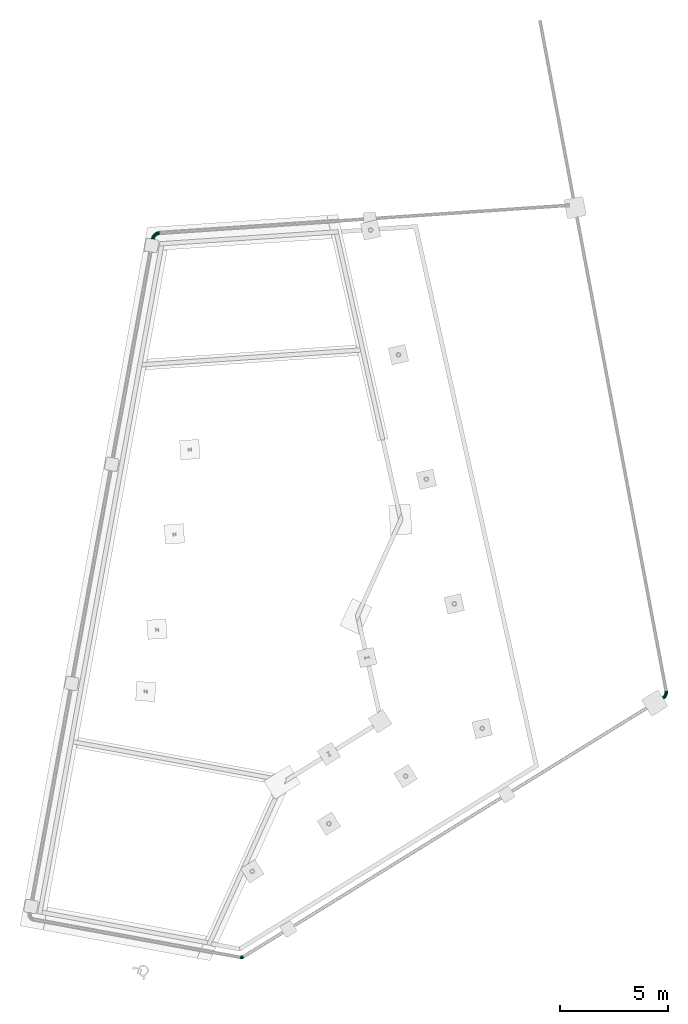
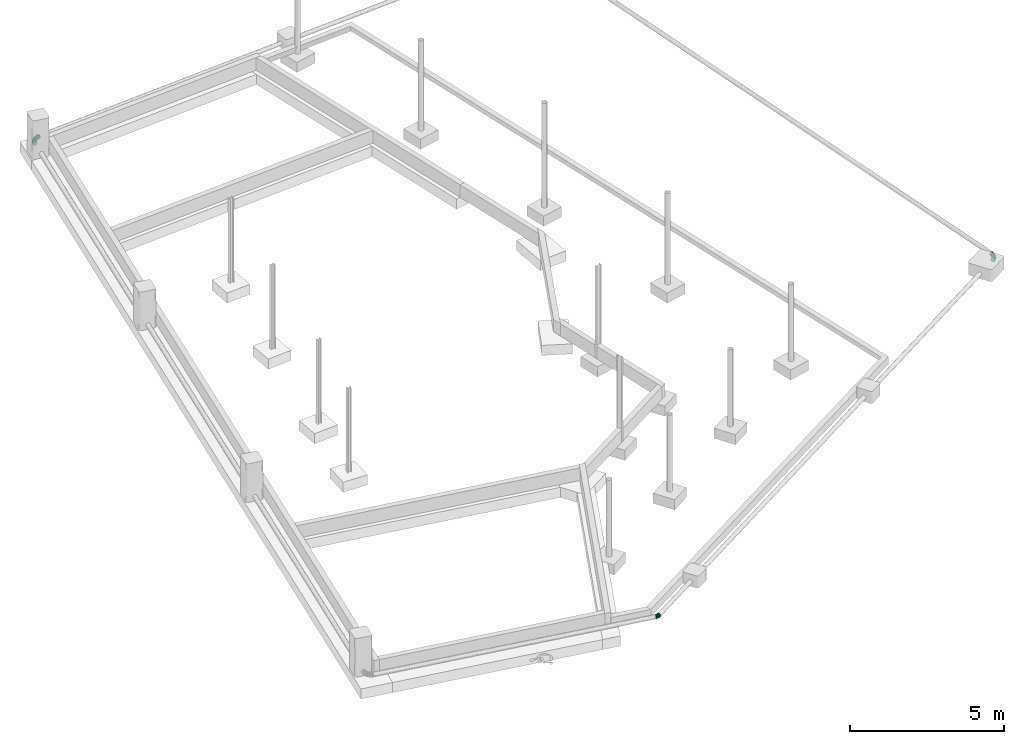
# One storey, part 15 of 17: 3 flow fittings.
"""IFC2X3 building model written with IfcOpenShell, lengths in centimetres."""

from ifc_helpers import new_model, entity, si_unit, converted_unit, derived_unit, direction, frame, origin, place, context, subcontext, project, spatial, faceted_brep, source, transform, mapped, material, type_object, type_shapes, element, save


model = new_model("IFC2X3")

# Units and contexts
model_context = context("Model", 3, precision=0.001, world=origin(), true_north=direction((6.12303176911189e-17, 1.0)))
body_context = subcontext(model_context, "Body", "Model", "MODEL_VIEW")
ifc_project = project(units=[si_unit("LENGTHUNIT", "METRE", prefix="CENTI"), si_unit("AREAUNIT", "SQUARE_METRE"), si_unit("VOLUMEUNIT", "CUBIC_METRE"), converted_unit("PLANEANGLEUNIT", "DEGREE", entity("IfcRatioMeasure", 0.0174532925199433), si_unit("PLANEANGLEUNIT", "RADIAN"), dimensions=[0, 0, 0, 0, 0, 0, 0]), si_unit("MASSUNIT", "GRAM", prefix="KILO"), derived_unit("MASSDENSITYUNIT", [(si_unit("MASSUNIT", "GRAM", prefix="KILO"), 1), (si_unit("LENGTHUNIT", "METRE"), -3)]), si_unit("TIMEUNIT", "SECOND"), si_unit("FREQUENCYUNIT", "HERTZ"), si_unit("THERMODYNAMICTEMPERATUREUNIT", "DEGREE_CELSIUS"), derived_unit("THERMALTRANSMITTANCEUNIT", [(si_unit("MASSUNIT", "GRAM", prefix="KILO"), 1), (si_unit("THERMODYNAMICTEMPERATUREUNIT", "KELVIN"), -1), (si_unit("TIMEUNIT", "SECOND"), -3)]), derived_unit("VOLUMETRICFLOWRATEUNIT", [(si_unit("LENGTHUNIT", "METRE"), 3), (si_unit("TIMEUNIT", "SECOND"), -1)]), si_unit("ELECTRICCURRENTUNIT", "AMPERE"), si_unit("ELECTRICVOLTAGEUNIT", "VOLT"), si_unit("POWERUNIT", "WATT"), si_unit("FORCEUNIT", "NEWTON", prefix="KILO"), si_unit("ILLUMINANCEUNIT", "LUX"), si_unit("LUMINOUSFLUXUNIT", "LUMEN"), si_unit("LUMINOUSINTENSITYUNIT", "CANDELA"), derived_unit("USERDEFINED", [(si_unit("MASSUNIT", "GRAM", prefix="KILO"), -1), (si_unit("LENGTHUNIT", "METRE"), -2), (si_unit("TIMEUNIT", "SECOND"), 3), (si_unit("LUMINOUSFLUXUNIT", "LUMEN"), 1)]), derived_unit("LINEARVELOCITYUNIT", [(si_unit("LENGTHUNIT", "METRE"), 1), (si_unit("TIMEUNIT", "SECOND"), -1)]), si_unit("PRESSUREUNIT", "PASCAL"), derived_unit("USERDEFINED", [(si_unit("LENGTHUNIT", "METRE"), -2), (si_unit("MASSUNIT", "GRAM", prefix="KILO"), 1), (si_unit("TIMEUNIT", "SECOND"), -2)])], contexts=[model_context])

# Site, building, storey
site_placement = place(None, frame((2611.71187422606, 13650.4058644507, 0.0), z_axis=(0.0, 0.0, 1.0), x_axis=(0.0673222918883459, -0.997731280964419, 0.0)))
site = spatial("IfcSite", under=ifc_project, at=site_placement, Name="Surface", CompositionType="ELEMENT")
building_placement = place(site_placement, origin())
building = spatial("IfcBuilding", under=site, at=building_placement, CompositionType="ELEMENT")
storey_placement = place(building_placement, frame((0.0, 0.0, 86950.0)))
storey = spatial("IfcBuildingStorey", under=building, at=storey_placement, Name="-1 Soubassement", CompositionType="ELEMENT", Elevation=86950.0)

# Flow fittings
ifc_material = material(Name="PVC")
duct_fitting_type_1 = type_object("IfcDuctFittingType", Name="Coude 45", PredefinedType="NOTDEFINED", material=ifc_material)
shared_shape_1 = source(origin(), body_context, "Body", "Brep", [
    faceted_brep([(-9.23504927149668, 31.2714390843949, 8.0), (-7.79777735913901, 28.5683237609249, 7.3910362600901), (-2.95147842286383, 31.9617388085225, 7.3910362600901), (-5.0, 34.2368525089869, 8.0), (-6.57931706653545, 26.2767332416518, 5.6568542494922), (-1.21482568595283, 30.0329905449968, 5.6568542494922), (-5.76516792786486, 24.7455414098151, 3.06146745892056), (-0.0544314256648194, 28.744242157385, 3.06146745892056), (-5.47927676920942, 24.2078583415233, 0.0), (0.353044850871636, 28.2916939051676, 0.0), (-5.76516792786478, 24.745541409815, -3.06146745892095), (-0.0544314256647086, 28.7442421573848, -3.06146745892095), (-6.57931706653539, 26.2767332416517, -5.65685424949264), (-1.21482568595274, 30.0329905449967, -5.65685424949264), (-7.79777735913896, 28.5683237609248, -7.39103626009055), (-2.95147842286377, 31.9617388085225, -7.39103626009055), (-9.23504927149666, 31.2714390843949, -8.0), (-5.0, 34.2368525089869, -8.0), (-10.6723211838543, 33.9745544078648, -7.39103626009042), (-7.04852157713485, 36.5119662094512, -7.39103626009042), (-11.8907814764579, 36.2661449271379, -5.65685424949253), (-8.78517431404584, 38.4407144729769, -5.65685424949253), (-12.7049306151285, 37.7973367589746, -3.06146745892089), (-9.94556857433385, 39.7294628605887, -3.06146745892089), (-12.9908217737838, 38.3350198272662, 0.0), (-10.3530448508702, 40.182011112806, 0.0), (-12.7049306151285, 37.7973367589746, 3.06146745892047), (-9.94556857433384, 39.7294628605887, 3.06146745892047), (-11.8907814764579, 36.2661449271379, 5.65685424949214), (-8.78517431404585, 38.4407144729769, 5.65685424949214), (-10.6723211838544, 33.9745544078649, 7.39103626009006), (-7.04852157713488, 36.5119662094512, 7.39103626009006), (-14.0616979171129, 29.4186622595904, 8.0), (-13.3210619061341, 26.4481334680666, 7.3910362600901), (-12.6931810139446, 23.9298407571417, 5.6568542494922), (-12.2736444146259, 22.2471713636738, 3.06146745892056), (-12.1263227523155, 21.6562964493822, 0.0), (-12.2736444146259, 22.2471713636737, -3.06146745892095), (-12.6931810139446, 23.9298407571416, -5.65685424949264), (-13.3210619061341, 26.4481334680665, -7.39103626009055), (-14.0616979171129, 29.4186622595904, -8.0), (-14.8023339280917, 32.3891910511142, -7.39103626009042), (-15.4302148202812, 34.907483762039, -5.65685424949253), (-15.8497514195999, 36.5901531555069, -3.06146745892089), (-15.9970730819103, 37.1810280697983, 0.0), (-15.8497514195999, 36.5901531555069, 3.06146745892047), (-15.4302148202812, 34.907483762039, 5.65685424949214), (-14.8023339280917, 32.3891910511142, 7.39103626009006), (-19.19320175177, 28.7885928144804, 8.0), (-19.19320175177, 25.7271253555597, 7.3910362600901), (-19.19320175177, 23.131738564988, 5.6568542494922), (-19.19320175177, 21.3975565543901, 3.06146745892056), (-19.19320175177, 20.7885928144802, 0.0), (-19.19320175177, 21.3975565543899, -3.06146745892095), (-19.19320175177, 23.1317385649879, -5.65685424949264), (-19.19320175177, 25.7271253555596, -7.39103626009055), (-19.19320175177, 28.7885928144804, -8.0), (-19.19320175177, 31.8500602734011, -7.39103626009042), (-19.19320175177, 34.4454470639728, -5.65685424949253), (-19.1932017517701, 36.1796290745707, -3.06146745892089), (-19.1932017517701, 36.7885928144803, 0.0), (-19.1932017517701, 36.1796290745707, 3.06146745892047), (-19.1932017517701, 34.4454470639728, 5.65685424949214), (-19.19320175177, 31.8500602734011, 7.39103626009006)], [[[0, 1, 2, 3]], [[1, 4, 5, 2]], [[4, 6, 7, 5]], [[6, 8, 9, 7]], [[8, 10, 11, 9]], [[10, 12, 13, 11]], [[12, 14, 15, 13]], [[14, 16, 17, 15]], [[16, 18, 19, 17]], [[18, 20, 21, 19]], [[20, 22, 23, 21]], [[22, 24, 25, 23]], [[24, 26, 27, 25]], [[26, 28, 29, 27]], [[28, 30, 31, 29]], [[30, 0, 3, 31]], [[32, 33, 1, 0]], [[33, 34, 4, 1]], [[34, 35, 6, 4]], [[35, 36, 8, 6]], [[36, 37, 10, 8]], [[37, 38, 12, 10]], [[38, 39, 14, 12]], [[39, 40, 16, 14]], [[40, 41, 18, 16]], [[41, 42, 20, 18]], [[42, 43, 22, 20]], [[43, 44, 24, 22]], [[44, 45, 26, 24]], [[45, 46, 28, 26]], [[46, 47, 30, 28]], [[47, 32, 0, 30]], [[48, 49, 33, 32]], [[49, 50, 34, 33]], [[50, 51, 35, 34]], [[51, 52, 36, 35]], [[52, 53, 37, 36]], [[53, 54, 38, 37]], [[54, 55, 39, 38]], [[55, 56, 40, 39]], [[56, 57, 41, 40]], [[57, 58, 42, 41]], [[58, 59, 43, 42]], [[59, 60, 44, 43]], [[60, 61, 45, 44]], [[61, 62, 46, 45]], [[62, 63, 47, 46]], [[63, 48, 32, 47]], [[3, 2, 5, 7, 9, 11, 13, 15, 17, 19, 21, 23, 25, 27, 29, 31]], [[63, 62, 61, 60, 59, 58, 57, 56, 55, 54, 53, 52, 51, 50, 49, 48]]]),
])
type_shapes(duct_fitting_type_1, [shared_shape_1])
flow_fitting_1_placement = place(storey_placement, frame((5317.73809617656, 355.895064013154, 18.0), z_axis=(0.0, 0.0, 1.0), x_axis=(0.245945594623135, 0.969283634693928, 0.0)))
element("IfcFlowFitting", 1, at=flow_fitting_1_placement, inside=storey, type_object=duct_fitting_type_1, material=ifc_material, Name="coude 45:Coude 45", ObjectType="coude 45:Coude 45", context=body_context, shape_type="MappedRepresentation", body=[
    mapped(shared_shape_1, transform((0.0, 0.0, 0.0), scale=1.0)),
])
duct_fitting_type_2 = type_object("IfcDuctFittingType", Name="Coude 45", PredefinedType="NOTDEFINED", material=ifc_material)
shared_shape_2 = source(origin(), body_context, "Body", "Brep", [
    faceted_brep([(-7.8367278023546, 33.1002332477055, 8.0), (-5.25471233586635, 31.4553079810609, 7.3910362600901), (-2.14187390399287, 37.6310662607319, 7.3910362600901), (-5.0, 38.728198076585, 8.0), (-3.06578531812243, 30.0608076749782, 5.6568542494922), (0.281128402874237, 36.7009628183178, 5.6568542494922), (-1.60319104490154, 29.1290323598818, 3.06146745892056), (1.90012678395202, 36.0794875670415, 3.06146745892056), (-1.08959623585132, 28.8018363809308, 0.0), (2.46864341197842, 35.8612544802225, 0.0), (-1.6031910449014, 29.1290323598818, -3.06146745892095), (1.90012678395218, 36.0794875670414, -3.06146745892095), (-3.06578531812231, 30.0608076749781, -5.65685424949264), (0.281128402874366, 36.7009628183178, -5.65685424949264), (-5.25471233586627, 31.4553079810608, -7.39103626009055), (-2.14187390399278, 37.6310662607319, -7.39103626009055), (-7.83672780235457, 33.1002332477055, -8.0), (-5.0, 38.728198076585, -8.0), (-10.4187432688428, 34.7451585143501, -7.39103626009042), (-7.85812609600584, 39.8253298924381, -7.39103626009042), (-12.6076702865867, 36.1396588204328, -5.65685424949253), (-10.2811284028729, 40.7554333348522, -5.65685424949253), (-14.0702645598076, 37.0714341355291, -3.06146745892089), (-11.9001267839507, 41.3769085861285, -3.06146745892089), (-14.5838593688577, 37.39863011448, 0.0), (-12.4686434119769, 41.5951416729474, 0.0), (-14.0702645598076, 37.0714341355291, 3.06146745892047), (-11.9001267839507, 41.3769085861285, 3.06146745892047), (-12.6076702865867, 36.1396588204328, 5.65685424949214), (-10.2811284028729, 40.7554333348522, 5.65685424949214), (-10.4187432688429, 34.7451585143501, 7.39103626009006), (-7.85812609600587, 39.8253298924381, 7.39103626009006), (-11.7385431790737, 28.1508040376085, 8.0), (-9.53630778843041, 26.0241300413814, 7.3910362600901), (-7.669342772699, 24.2212228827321, 5.6568542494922), (-6.4218766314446, 23.0165588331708, 3.06146745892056), (-5.98382477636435, 22.5935370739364, 0.0), (-6.42187663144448, 23.0165588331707, -3.06146745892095), (-7.6693427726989, 24.221222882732, -5.65685424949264), (-9.53630778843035, 26.0241300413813, -7.39103626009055), (-11.7385431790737, 28.1508040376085, -8.0), (-13.940778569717, 30.2774780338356, -7.39103626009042), (-15.8077435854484, 32.0803851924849, -5.65685424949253), (-17.0552097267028, 33.2850492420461, -3.06146745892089), (-17.4932615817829, 33.7080710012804, 0.0), (-17.0552097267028, 33.2850492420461, 3.06146745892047), (-15.8077435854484, 32.0803851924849, 5.65685424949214), (-13.940778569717, 30.2774780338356, 7.39103626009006), (-16.5487859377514, 24.0786329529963, 8.0), (-14.8147516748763, 21.5555974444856, 7.3910362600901), (-13.3447084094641, 19.4166712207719, 5.6568542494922), (-12.3624569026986, 17.987486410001, 3.06146745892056), (-12.0175360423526, 17.48562344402, 0.0), (-12.3624569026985, 17.9874864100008, -3.06146745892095), (-13.3447084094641, 19.4166712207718, -5.65685424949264), (-14.8147516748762, 21.5555974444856, -7.39103626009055), (-16.5487859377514, 24.0786329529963, -8.0), (-18.2828202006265, 26.6016684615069, -7.39103626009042), (-19.7528634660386, 28.7405946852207, -5.65685424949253), (-20.7351149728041, 30.1697794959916, -3.06146745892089), (-21.08003583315, 30.6716424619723, 0.0), (-20.7351149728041, 30.1697794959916, 3.06146745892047), (-19.7528634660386, 28.7405946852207, 5.65685424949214), (-18.2828202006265, 26.6016684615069, 7.39103626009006), (-22.0743219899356, 21.047220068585, 8.0), (-20.8781113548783, 18.2291244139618, 7.3910362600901), (-19.8640129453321, 15.8400582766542, 5.6568542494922), (-19.1864140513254, 14.2437353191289, 3.06146745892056), (-18.9484729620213, 13.6831812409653, 0.0), (-19.1864140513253, 14.2437353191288, -3.06146745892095), (-19.864012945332, 15.8400582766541, -5.65685424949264), (-20.8781113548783, 18.2291244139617, -7.39103626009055), (-22.0743219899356, 21.047220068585, -8.0), (-23.2705326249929, 23.8653157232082, -7.39103626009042), (-24.2846310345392, 26.2543818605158, -5.65685424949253), (-24.9622299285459, 27.8507048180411, -3.06146745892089), (-25.2001710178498, 28.4112588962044, 0.0), (-24.9622299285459, 27.850704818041, 3.06146745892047), (-24.2846310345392, 26.2543818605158, 5.65685424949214), (-23.2705326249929, 23.8653157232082, 7.39103626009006), (-28.0932977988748, 19.1782784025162, 8.0), (-27.4829393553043, 16.1782708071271, 7.3910362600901), (-26.9655024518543, 13.6349871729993, 5.6568542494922), (-26.6197621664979, 11.9356193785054, 3.06146745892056), (-26.4983543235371, 11.3388807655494, 0.0), (-26.6197621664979, 11.9356193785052, -3.06146745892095), (-26.9655024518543, 13.6349871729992, -5.65685424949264), (-27.4829393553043, 16.178270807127, -7.39103626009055), (-28.0932977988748, 19.1782784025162, -8.0), (-28.7036562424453, 22.1782859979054, -7.39103626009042), (-29.2210931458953, 24.7215696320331, -5.65685424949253), (-29.5668334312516, 26.420937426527, -3.06146745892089), (-29.6882412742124, 27.0176760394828, 0.0), (-29.5668334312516, 26.420937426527, 3.06146745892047), (-29.2210931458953, 24.7215696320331, 5.65685424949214), (-28.7036562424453, 22.1782859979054, 7.39103626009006), (-34.3640479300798, 18.5468470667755, 8.0), (-34.3640479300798, 15.4853796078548, 7.3910362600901), (-34.3640479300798, 12.8899928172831, 5.6568542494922), (-34.3640479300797, 11.1558108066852, 3.06146745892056), (-34.3640479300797, 10.5468470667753, 0.0), (-34.3640479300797, 11.155810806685, -3.06146745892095), (-34.3640479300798, 12.889992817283, -5.65685424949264), (-34.3640479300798, 15.4853796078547, -7.39103626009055), (-34.3640479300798, 18.5468470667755, -8.0), (-34.3640479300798, 21.6083145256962, -7.39103626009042), (-34.3640479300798, 24.2037013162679, -5.65685424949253), (-34.3640479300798, 25.9378833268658, -3.06146745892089), (-34.3640479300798, 26.5468470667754, 0.0), (-34.3640479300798, 25.9378833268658, 3.06146745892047), (-34.3640479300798, 24.2037013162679, 5.65685424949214), (-34.3640479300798, 21.6083145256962, 7.39103626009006)], [[[0, 1, 2, 3]], [[1, 4, 5, 2]], [[4, 6, 7, 5]], [[6, 8, 9, 7]], [[8, 10, 11, 9]], [[10, 12, 13, 11]], [[12, 14, 15, 13]], [[14, 16, 17, 15]], [[16, 18, 19, 17]], [[18, 20, 21, 19]], [[20, 22, 23, 21]], [[22, 24, 25, 23]], [[24, 26, 27, 25]], [[26, 28, 29, 27]], [[28, 30, 31, 29]], [[30, 0, 3, 31]], [[32, 33, 1, 0]], [[33, 34, 4, 1]], [[34, 35, 6, 4]], [[35, 36, 8, 6]], [[36, 37, 10, 8]], [[37, 38, 12, 10]], [[38, 39, 14, 12]], [[39, 40, 16, 14]], [[40, 41, 18, 16]], [[41, 42, 20, 18]], [[42, 43, 22, 20]], [[43, 44, 24, 22]], [[44, 45, 26, 24]], [[45, 46, 28, 26]], [[46, 47, 30, 28]], [[47, 32, 0, 30]], [[48, 49, 33, 32]], [[49, 50, 34, 33]], [[50, 51, 35, 34]], [[51, 52, 36, 35]], [[52, 53, 37, 36]], [[53, 54, 38, 37]], [[54, 55, 39, 38]], [[55, 56, 40, 39]], [[56, 57, 41, 40]], [[57, 58, 42, 41]], [[58, 59, 43, 42]], [[59, 60, 44, 43]], [[60, 61, 45, 44]], [[61, 62, 46, 45]], [[62, 63, 47, 46]], [[63, 48, 32, 47]], [[64, 65, 49, 48]], [[65, 66, 50, 49]], [[66, 67, 51, 50]], [[67, 68, 52, 51]], [[68, 69, 53, 52]], [[69, 70, 54, 53]], [[70, 71, 55, 54]], [[71, 72, 56, 55]], [[72, 73, 57, 56]], [[73, 74, 58, 57]], [[74, 75, 59, 58]], [[75, 76, 60, 59]], [[76, 77, 61, 60]], [[77, 78, 62, 61]], [[78, 79, 63, 62]], [[79, 64, 48, 63]], [[80, 81, 65, 64]], [[81, 82, 66, 65]], [[82, 83, 67, 66]], [[83, 84, 68, 67]], [[84, 85, 69, 68]], [[85, 86, 70, 69]], [[86, 87, 71, 70]], [[87, 88, 72, 71]], [[88, 89, 73, 72]], [[89, 90, 74, 73]], [[90, 91, 75, 74]], [[91, 92, 76, 75]], [[92, 93, 77, 76]], [[93, 94, 78, 77]], [[94, 95, 79, 78]], [[95, 80, 64, 79]], [[96, 97, 81, 80]], [[97, 98, 82, 81]], [[98, 99, 83, 82]], [[99, 100, 84, 83]], [[100, 101, 85, 84]], [[101, 102, 86, 85]], [[102, 103, 87, 86]], [[103, 104, 88, 87]], [[104, 105, 89, 88]], [[105, 106, 90, 89]], [[106, 107, 91, 90]], [[107, 108, 92, 91]], [[108, 109, 93, 92]], [[109, 110, 94, 93]], [[110, 111, 95, 94]], [[111, 96, 80, 95]], [[3, 2, 5, 7, 9, 11, 13, 15, 17, 19, 21, 23, 25, 27, 29, 31]], [[111, 110, 109, 108, 107, 106, 105, 104, 103, 102, 101, 100, 99, 98, 97, 96]]]),
])
type_shapes(duct_fitting_type_2, [shared_shape_2])
flow_fitting_2_placement = place(storey_placement, frame((4216.4617651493, 2422.74149804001, 18.0), z_axis=(0.0, 0.0, 1.0), x_axis=(-0.466358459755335, 0.884595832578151, 0.0)))
element("IfcFlowFitting", 2, at=flow_fitting_2_placement, inside=storey, type_object=duct_fitting_type_2, material=ifc_material, Name="coude 45:Coude 45", ObjectType="coude 45:Coude 45", context=body_context, shape_type="MappedRepresentation", body=[
    mapped(shared_shape_2, transform((0.0, 0.0, 0.0), scale=1.0)),
])
duct_fitting_type_3 = type_object("IfcDuctFittingType", Name="Coude 45", PredefinedType="NOTDEFINED", material=ifc_material)
shared_shape_3 = source(origin(), body_context, "Body", "Brep", [
    faceted_brep([(-7.20953745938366, 35.2424714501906, 8.0), (-4.43168834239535, 33.9555614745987, 7.3910362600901), (-2.02947120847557, 40.7661847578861, 7.3910362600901), (-5.0, 41.5068207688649, 8.0), (-2.07674157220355, 32.8645718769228, 5.6568542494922), (0.488821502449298, 40.1383038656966, 5.6568542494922), (-0.503216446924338, 32.1355959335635, 3.06146745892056), (2.17149089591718, 39.7187672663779, 3.06146745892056), (0.0493320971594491, 31.879613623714, 0.0), (2.76236581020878, 39.5714456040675, 0.0), (-0.503216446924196, 32.1355959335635, -3.06146745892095), (2.17149089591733, 39.7187672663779, -3.06146745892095), (-2.07674157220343, 32.8645718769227, -5.65685424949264), (0.488821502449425, 40.1383038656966, -5.65685424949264), (-4.43168834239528, 33.9555614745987, -7.39103626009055), (-2.02947120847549, 40.766184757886, -7.39103626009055), (-7.20953745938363, 35.2424714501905, -8.0), (-5.0, 41.5068207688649, -8.0), (-9.98738657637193, 36.5293814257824, -7.39103626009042), (-7.97052879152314, 42.2474567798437, -7.39103626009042), (-12.3423333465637, 37.6203710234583, -5.65685424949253), (-10.488821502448, 42.8753376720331, -5.65685424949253), (-13.9158584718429, 38.3493469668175, -3.06146745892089), (-12.1714908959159, 43.2948742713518, -3.06146745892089), (-14.4684070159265, 38.605329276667, 0.0), (-12.7623658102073, 43.4421959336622, 0.0), (-13.9158584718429, 38.3493469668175, 3.06146745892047), (-12.1714908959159, 43.2948742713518, 3.06146745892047), (-12.3423333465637, 37.6203710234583, 5.65685424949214), (-10.488821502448, 42.8753376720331, 5.65685424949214), (-9.98738657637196, 36.5293814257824, 7.39103626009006), (-7.97052879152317, 42.2474567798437, 7.39103626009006), (-10.5594823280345, 29.5064451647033, 8.0), (-8.07376054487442, 27.7193329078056, 7.3910362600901), (-5.96646737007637, 26.2042922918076, 5.6568542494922), (-4.55841908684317, 25.1919745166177, 3.06146745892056), (-4.06397828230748, 24.8364957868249, 0.0), (-4.55841908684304, 25.1919745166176, -3.06146745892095), (-5.96646737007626, 26.2042922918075, -5.65685424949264), (-8.07376054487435, 27.7193329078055, -7.39103626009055), (-10.5594823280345, 29.5064451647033, -8.0), (-13.0452041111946, 31.2935574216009, -7.39103626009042), (-15.1524972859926, 32.8085980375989, -5.65685424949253), (-16.5605455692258, 33.8209158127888, -3.06146745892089), (-17.0549863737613, 34.1763945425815, 0.0), (-16.5605455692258, 33.8209158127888, 3.06146745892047), (-15.1524972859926, 32.8085980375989, 5.65685424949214), (-13.0452041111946, 31.2935574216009, 7.39103626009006), (-14.9299057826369, 24.5040930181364, 8.0), (-12.8253007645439, 22.2807575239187, 7.3910362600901), (-11.0411027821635, 20.3959047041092, 5.6568542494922), (-9.84893980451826, 19.1364863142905, 3.06146745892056), (-9.43030783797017, 18.6942373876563, 0.0), (-9.84893980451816, 19.1364863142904, -3.06146745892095), (-11.0411027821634, 20.3959047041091, -5.65685424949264), (-12.8253007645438, 22.2807575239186, -7.39103626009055), (-14.9299057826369, 24.5040930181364, -8.0), (-17.0345108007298, 26.7274285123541, -7.39103626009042), (-18.8187087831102, 28.6122813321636, -5.65685424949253), (-20.0108717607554, 29.8716997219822, -3.06146745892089), (-20.4295037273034, 30.3139486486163, 0.0), (-20.0108717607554, 29.8716997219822, 3.06146745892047), (-18.8187087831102, 28.6122813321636, 5.65685424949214), (-17.0345108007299, 26.7274285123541, 7.39103626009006), (-20.1643456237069, 20.4145004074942, 8.0), (-18.5162027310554, 17.8345376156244, 7.3910362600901), (-17.1189746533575, 15.6473507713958, 5.6568542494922), (-16.1853766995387, 14.1859192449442, 3.06146745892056), (-15.8575406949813, 13.6727327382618, 0.0), (-16.1853766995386, 14.185919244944, -3.06146745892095), (-17.1189746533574, 15.6473507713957, -5.65685424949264), (-18.5162027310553, 17.8345376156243, -7.39103626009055), (-20.1643456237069, 20.4145004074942, -8.0), (-21.8124885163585, 22.994463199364, -7.39103626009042), (-23.2097165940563, 25.1816500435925, -5.65685424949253), (-24.1433145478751, 26.6430815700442, -3.06146745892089), (-24.4711505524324, 27.1562680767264, 0.0), (-24.1433145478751, 26.6430815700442, 3.06146745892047), (-23.2097165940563, 25.1816500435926, 5.65685424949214), (-21.8124885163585, 22.994463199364, 7.39103626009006), (-26.0754076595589, 17.3840757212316, 8.0), (-24.9427308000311, 14.5398489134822, 7.3910362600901), (-23.9824937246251, 12.1286298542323, 5.6568542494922), (-23.3408838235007, 10.5175047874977, 3.06146745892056), (-23.1155803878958, 9.95175289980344, 0.0), (-23.3408838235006, 10.5175047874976, -3.06146745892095), (-23.982493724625, 12.1286298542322, -5.65685424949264), (-24.9427308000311, 14.5398489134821, -7.39103626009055), (-26.0754076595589, 17.3840757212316, -8.0), (-27.2080845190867, 20.228302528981, -7.39103626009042), (-28.1683215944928, 22.6395215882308, -5.65685424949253), (-28.8099314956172, 24.2506466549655, -3.06146745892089), (-29.035234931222, 24.8163985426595, 0.0), (-28.8099314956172, 24.2506466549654, 3.06146745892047), (-28.1683215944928, 22.6395215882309, 5.65685424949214), (-27.2080845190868, 20.2283025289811, 7.39103626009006), (-32.4514744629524, 15.521308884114, 8.0), (-31.8748137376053, 12.5146420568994, 7.3910362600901), (-31.3859443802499, 9.96571299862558, 5.6568542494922), (-31.0592923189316, 8.26257305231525, 3.06146745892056), (-30.9445873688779, 7.66450983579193, 0.0), (-31.0592923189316, 8.26257305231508, -3.06146745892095), (-31.3859443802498, 9.96571299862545, -5.65685424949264), (-31.8748137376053, 12.5146420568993, -7.39103626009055), (-32.4514744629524, 15.521308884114, -8.0), (-33.0281351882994, 18.5279757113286, -7.39103626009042), (-33.5170045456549, 21.0769047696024, -5.65685424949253), (-33.8436566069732, 22.7800447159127, -3.06146745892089), (-33.9583615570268, 23.3781079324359, 0.0), (-33.8436566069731, 22.7800447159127, 3.06146745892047), (-33.5170045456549, 21.0769047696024, 5.65685424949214), (-33.0281351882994, 18.5279757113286, 7.39103626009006), (-39.064281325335, 14.8928873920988, 8.0), (-39.0642813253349, 11.8314199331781, 7.3910362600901), (-39.0642813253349, 9.23603314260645, 5.6568542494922), (-39.0642813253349, 7.50185113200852, 3.06146745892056), (-39.0642813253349, 6.89288739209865, 0.0), (-39.0642813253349, 7.50185113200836, -3.06146745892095), (-39.0642813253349, 9.23603314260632, -5.65685424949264), (-39.0642813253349, 11.831419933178, -7.39103626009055), (-39.064281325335, 14.8928873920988, -8.0), (-39.064281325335, 17.9543548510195, -7.39103626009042), (-39.064281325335, 20.5497416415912, -5.65685424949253), (-39.064281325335, 22.2839236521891, -3.06146745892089), (-39.064281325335, 22.8928873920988, 0.0), (-39.064281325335, 22.2839236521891, 3.06146745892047), (-39.064281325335, 20.5497416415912, 5.65685424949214), (-39.064281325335, 17.9543548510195, 7.39103626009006)], [[[0, 1, 2, 3]], [[1, 4, 5, 2]], [[4, 6, 7, 5]], [[6, 8, 9, 7]], [[8, 10, 11, 9]], [[10, 12, 13, 11]], [[12, 14, 15, 13]], [[14, 16, 17, 15]], [[16, 18, 19, 17]], [[18, 20, 21, 19]], [[20, 22, 23, 21]], [[22, 24, 25, 23]], [[24, 26, 27, 25]], [[26, 28, 29, 27]], [[28, 30, 31, 29]], [[30, 0, 3, 31]], [[32, 33, 1, 0]], [[33, 34, 4, 1]], [[34, 35, 6, 4]], [[35, 36, 8, 6]], [[36, 37, 10, 8]], [[37, 38, 12, 10]], [[38, 39, 14, 12]], [[39, 40, 16, 14]], [[40, 41, 18, 16]], [[41, 42, 20, 18]], [[42, 43, 22, 20]], [[43, 44, 24, 22]], [[44, 45, 26, 24]], [[45, 46, 28, 26]], [[46, 47, 30, 28]], [[47, 32, 0, 30]], [[48, 49, 33, 32]], [[49, 50, 34, 33]], [[50, 51, 35, 34]], [[51, 52, 36, 35]], [[52, 53, 37, 36]], [[53, 54, 38, 37]], [[54, 55, 39, 38]], [[55, 56, 40, 39]], [[56, 57, 41, 40]], [[57, 58, 42, 41]], [[58, 59, 43, 42]], [[59, 60, 44, 43]], [[60, 61, 45, 44]], [[61, 62, 46, 45]], [[62, 63, 47, 46]], [[63, 48, 32, 47]], [[64, 65, 49, 48]], [[65, 66, 50, 49]], [[66, 67, 51, 50]], [[67, 68, 52, 51]], [[68, 69, 53, 52]], [[69, 70, 54, 53]], [[70, 71, 55, 54]], [[71, 72, 56, 55]], [[72, 73, 57, 56]], [[73, 74, 58, 57]], [[74, 75, 59, 58]], [[75, 76, 60, 59]], [[76, 77, 61, 60]], [[77, 78, 62, 61]], [[78, 79, 63, 62]], [[79, 64, 48, 63]], [[80, 81, 65, 64]], [[81, 82, 66, 65]], [[82, 83, 67, 66]], [[83, 84, 68, 67]], [[84, 85, 69, 68]], [[85, 86, 70, 69]], [[86, 87, 71, 70]], [[87, 88, 72, 71]], [[88, 89, 73, 72]], [[89, 90, 74, 73]], [[90, 91, 75, 74]], [[91, 92, 76, 75]], [[92, 93, 77, 76]], [[93, 94, 78, 77]], [[94, 95, 79, 78]], [[95, 80, 64, 79]], [[96, 97, 81, 80]], [[97, 98, 82, 81]], [[98, 99, 83, 82]], [[99, 100, 84, 83]], [[100, 101, 85, 84]], [[101, 102, 86, 85]], [[102, 103, 87, 86]], [[103, 104, 88, 87]], [[104, 105, 89, 88]], [[105, 106, 90, 89]], [[106, 107, 91, 90]], [[107, 108, 92, 91]], [[108, 109, 93, 92]], [[109, 110, 94, 93]], [[110, 111, 95, 94]], [[111, 96, 80, 95]], [[112, 113, 97, 96]], [[113, 114, 98, 97]], [[114, 115, 99, 98]], [[115, 116, 100, 99]], [[116, 117, 101, 100]], [[117, 118, 102, 101]], [[118, 119, 103, 102]], [[119, 120, 104, 103]], [[120, 121, 105, 104]], [[121, 122, 106, 105]], [[122, 123, 107, 106]], [[123, 124, 108, 107]], [[124, 125, 109, 108]], [[125, 126, 110, 109]], [[126, 127, 111, 110]], [[127, 112, 96, 111]], [[3, 2, 5, 7, 9, 11, 13, 15, 17, 19, 21, 23, 25, 27, 29, 31]], [[127, 126, 125, 124, 123, 122, 121, 120, 119, 118, 117, 116, 115, 114, 113, 112]]]),
])
type_shapes(duct_fitting_type_3, [shared_shape_3])
flow_fitting_3_placement = place(storey_placement, frame((1889.59707802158, 158.747838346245, 18.0), z_axis=(0.0, 0.0, 1.0), x_axis=(0.0, -1.0, 0.0)))
element("IfcFlowFitting", 3, at=flow_fitting_3_placement, inside=storey, type_object=duct_fitting_type_3, material=ifc_material, Name="coude 45:Coude 45", ObjectType="coude 45:Coude 45", context=body_context, shape_type="MappedRepresentation", body=[
    mapped(shared_shape_3, transform((0.0, 0.0, 0.0), scale=1.0)),
])

save(model, "model.ifc")
